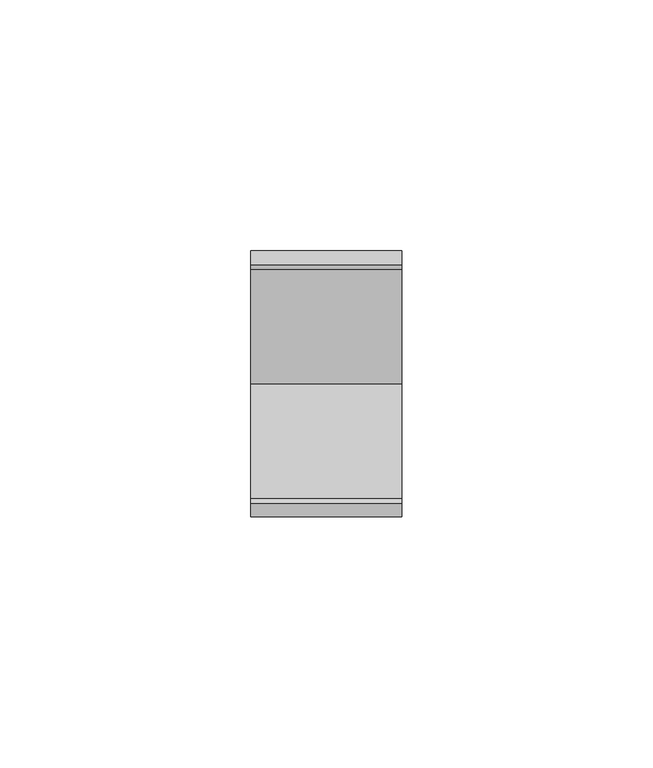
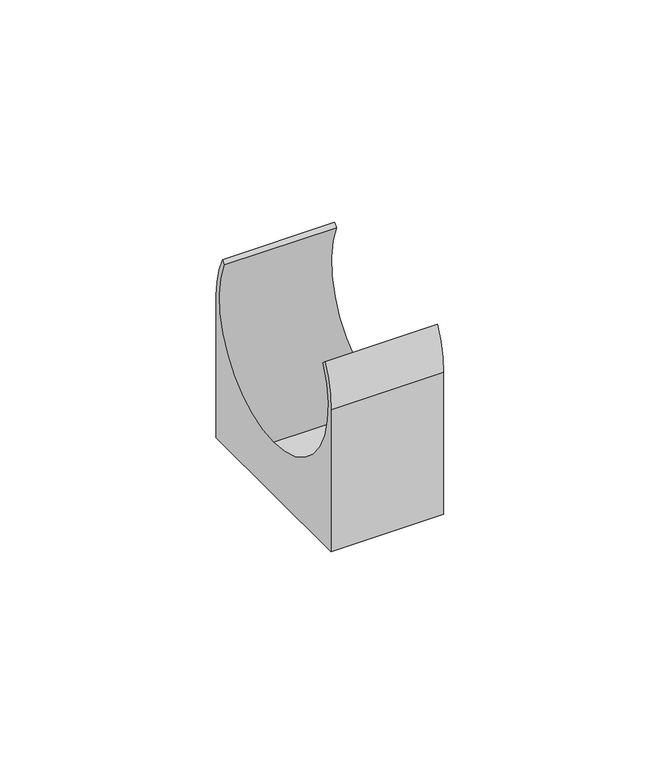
"""IFC4 building model written with IfcOpenShell, lengths in millimetres: cable carrier fitting geometry, Крепеж-клипса_для_труб : Крепеж-клипса для трубы 50мм."""

import ifcopenshell
import ifcopenshell.guid

model = None  # the IFC model being written
_history = None  # IfcOwnerHistory: only IFC2X3 demands one
_inside = {}  # id of a spatial element -> (the spatial element, [elements in it])
_under = {}  # id of a project, library or spatial element -> (it, [spatial elements below it])
_declared = {}  # id of a project -> (the project, [libraries it declares])
_typed = {}  # id of a type object -> (the type object, [elements of that type])
_made_of = {}  # id of a material, layer set ... -> (it, [elements and type objects made of it])


def new_model(schema):
    """Start an empty IFC model of exactly this schema.

    Asked for "IFC4X3", IfcOpenShell would pick the latest addendum, in which some entities
    have other attributes; the version numbers below select the first issue.
    IFC2X3 requires an IfcOwnerHistory on every rooted entity: one is made here for all.
    """
    global model, _history
    if schema == "IFC4X3":
        model = ifcopenshell.file(schema_version=(4, 3, 0, 0))
    else:
        model = ifcopenshell.file(schema=schema)
    _inside.clear()
    _under.clear()
    _declared.clear()
    _typed.clear()
    _made_of.clear()
    _history = None
    if model.schema == "IFC2X3":
        org = make("IfcOrganization", Name="unknown")
        user = make(
            "IfcPersonAndOrganization",
            ThePerson=make("IfcPerson", FamilyName="unknown"),
            TheOrganization=org,
        )
        app = make(
            "IfcApplication",
            ApplicationDeveloper=org,
            Version="unknown",
            ApplicationFullName="unknown",
            ApplicationIdentifier="unknown",
        )
        _history = make(
            "IfcOwnerHistory",
            OwningUser=user,
            OwningApplication=app,
            ChangeAction="ADDED",
            CreationDate=0,
        )
    return model


def make(cls, **values):
    """One entity of the class cls with the attributes given. An attribute that is None is left unset."""
    return model.create_entity(
        cls, **{name: value for name, value in values.items() if value is not None}
    )


def rooted(cls, **values):
    """An entity with a GlobalId (a new one), such as an element, a storey or a relation."""
    return make(cls, GlobalId=ifcopenshell.guid.new(), OwnerHistory=_history, **values)


def si_unit(unit_type, name, prefix=None):
    """IfcSIUnit, for example si_unit("LENGTHUNIT", "METRE", prefix="MILLI")."""
    return make("IfcSIUnit", UnitType=unit_type, Prefix=prefix, Name=name)


def assignment(units):
    """IfcUnitAssignment: the units of a project."""
    return None if units is None else make("IfcUnitAssignment", Units=units)


def point(xyz):
    """IfcCartesianPoint."""
    return None if xyz is None else make("IfcCartesianPoint", Coordinates=xyz)


def direction(xyz):
    """IfcDirection."""
    return None if xyz is None else make("IfcDirection", DirectionRatios=xyz)


def frame(location, z_axis=None, x_axis=None):
    """IfcAxis2Placement3D, a coordinate frame: its origin and axes. An axis left out is left unset."""
    return make(
        "IfcAxis2Placement3D",
        Location=point(location),
        Axis=direction(z_axis),
        RefDirection=direction(x_axis),
    )


def frame_2d(location, x_axis=None):
    """IfcAxis2Placement2D, a coordinate frame in the plane: its origin and x axis."""
    return make(
        "IfcAxis2Placement2D", Location=point(location), RefDirection=direction(x_axis)
    )


def origin():
    """The frame at (0, 0, 0) with its axes left unset."""
    return frame((0.0, 0.0, 0.0))


def origin_2d():
    """The frame at (0, 0) in the plane with its x axis left unset."""
    return frame_2d((0.0, 0.0))


def place(relative_to, where):
    """IfcLocalPlacement: puts the frame where relative to a parent placement (None: the world)."""
    return make(
        "IfcLocalPlacement", PlacementRelTo=relative_to, RelativePlacement=where
    )


def context(
    kind, dimensions, precision=None, world=None, true_north=None, identifier=None
):
    """IfcGeometricRepresentationContext, for example the 3D "Model" context."""
    return make(
        "IfcGeometricRepresentationContext",
        ContextIdentifier=identifier,
        ContextType=kind,
        CoordinateSpaceDimension=dimensions,
        Precision=precision,
        WorldCoordinateSystem=world,
        TrueNorth=true_north,
    )


def project(units=None, contexts=None):
    """IfcProject with its units and contexts."""
    return rooted(
        "IfcProject",
        Name="project",
        RepresentationContexts=contexts,
        UnitsInContext=assignment(units),
    )


def spatial(cls, under=None, at=None, **own):
    """A site, building, storey or space (cls), placed at a placement, below another one or the project."""
    s = rooted(cls, ObjectPlacement=at, **own)
    if under is not None:
        _under.setdefault(under.id(), (under, []))[1].append(s)
    return s


def polyline(points):
    """IfcPolyline through the points."""
    return make("IfcPolyline", Points=[point(p) for p in points])


def circle_curve(where, radius):
    """IfcCircle in the frame where."""
    return make("IfcCircle", Position=where, Radius=radius)


def trimmed(basis, trim1, trim2, sense, master):
    """IfcTrimmedCurve: the piece of a basis curve between two trims."""
    return make(
        "IfcTrimmedCurve",
        BasisCurve=basis,
        Trim1=trim1,
        Trim2=trim2,
        SenseAgreement=sense,
        MasterRepresentation=master,
    )


def segment(curve, same_sense, transition):
    """IfcCompositeCurveSegment."""
    return make(
        "IfcCompositeCurveSegment",
        Transition=transition,
        SameSense=same_sense,
        ParentCurve=curve,
    )


def composite_curve(segments, self_intersect=None):
    """IfcCompositeCurve: segments joined end to end."""
    return make("IfcCompositeCurve", Segments=segments, SelfIntersect=self_intersect)


def outline(outer, holes=None, kind="AREA"):
    """IfcArbitraryClosedProfileDef: a profile drawn as a closed curve; with holes, ...WithVoids."""
    if holes is None:
        return make("IfcArbitraryClosedProfileDef", ProfileType=kind, OuterCurve=outer)
    return make(
        "IfcArbitraryProfileDefWithVoids",
        ProfileType=kind,
        OuterCurve=outer,
        InnerCurves=holes,
    )


def extrude(swept, where, along, depth):
    """IfcExtrudedAreaSolid: the profile swept, set in the frame where, extruded along a direction by depth."""
    return make(
        "IfcExtrudedAreaSolid",
        SweptArea=swept,
        Position=where,
        ExtrudedDirection=direction(along),
        Depth=depth,
    )


def shape(context_of_items, identifier, shape_type, items):
    """IfcShapeRepresentation: the items that make up one representation, for example the "Body"."""
    return make(
        "IfcShapeRepresentation",
        ContextOfItems=context_of_items,
        RepresentationIdentifier=identifier,
        RepresentationType=shape_type,
        Items=items,
    )


def source(mapping_origin, context_of_items, identifier, shape_type, items):
    """IfcRepresentationMap: a shape defined once, which mapped items show again and again."""
    return make(
        "IfcRepresentationMap",
        MappingOrigin=mapping_origin,
        MappedRepresentation=shape(context_of_items, identifier, shape_type, items),
    )


def transform(
    local_origin,
    x_axis=None,
    y_axis=None,
    z_axis=None,
    scale=None,
    scale2=None,
    scale3=None,
    uniform=True,
):
    """IfcCartesianTransformationOperator3D, or its non-uniform kind. x_axis, y_axis, z_axis: its Axis1, 2, 3."""
    if uniform:
        return make(
            "IfcCartesianTransformationOperator3D",
            Axis1=direction(x_axis),
            Axis2=direction(y_axis),
            LocalOrigin=point(local_origin),
            Scale=scale,
            Axis3=direction(z_axis),
        )
    return make(
        "IfcCartesianTransformationOperator3DnonUniform",
        Axis1=direction(x_axis),
        Axis2=direction(y_axis),
        LocalOrigin=point(local_origin),
        Scale=scale,
        Axis3=direction(z_axis),
        Scale2=scale2,
        Scale3=scale3,
    )


def mapped(mapping_source, mapping_target):
    """IfcMappedItem: shows the shape of a source again, moved by a transform."""
    return make(
        "IfcMappedItem", MappingSource=mapping_source, MappingTarget=mapping_target
    )


def made_of(thing, what):
    """Note that an element or type object is made of a material, layer set ...; save() writes the relation."""
    if what is not None:
        _made_of.setdefault(what.id(), (what, []))[1].append(thing)
    return thing


def element(
    cls,
    number,
    at=None,
    inside=None,
    cuts=None,
    type_object=None,
    material=None,
    context=None,
    identifier="Body",
    shape_type=None,
    held_by="IfcProductDefinitionShape",
    body=None,
    shapes=None,
    **own,
):
    """One element of the class cls, such as IfcWall. Its Tag is "e" and its number.

    at: its placement. inside: the storey or other place that contains it. cuts: it is an
    opening in that element (IfcRelVoidsElement). A single representation is given by context,
    identifier, shape_type and body (its items); several are given by shapes. held_by: the class
    of the entity that holds the representations. save() writes the other relations.
    """
    e = rooted(cls, Tag="e%d" % number, ObjectPlacement=at, **own)
    if body is not None:
        shapes = [shape(context, identifier, shape_type, body)]
    if shapes is not None:
        e.Representation = make(held_by, Representations=shapes)
    if inside is not None:
        _inside.setdefault(inside.id(), (inside, []))[1].append(e)
    if cuts is not None:
        rooted(
            "IfcRelVoidsElement", RelatingBuildingElement=cuts, RelatedOpeningElement=e
        )
    if type_object is not None:
        _typed.setdefault(type_object.id(), (type_object, []))[1].append(e)
    return made_of(e, material)


def aggregate(whole, parts):
    """IfcRelAggregates: a whole, such as a stair, and the parts it consists of."""
    return rooted("IfcRelAggregates", RelatingObject=whole, RelatedObjects=parts)


def save(model, path):
    """Write the relations noted so far, then the file.

    IfcRelAggregates (storeys below a building ...), IfcRelContainedInSpatialStructure (elements
    in a storey), IfcRelDefinesByType, IfcRelAssociatesMaterial and IfcRelDeclares: one each for
    every whole, place, type object, material and project.
    """
    for whole, parts in _under.values():
        aggregate(whole, parts)
    for where, things in _inside.values():
        rooted(
            "IfcRelContainedInSpatialStructure",
            RelatedElements=things,
            RelatingStructure=where,
        )
    for kind, things in _typed.values():
        rooted("IfcRelDefinesByType", RelatedObjects=things, RelatingType=kind)
    for what, things in _made_of.values():
        rooted("IfcRelAssociatesMaterial", RelatedObjects=things, RelatingMaterial=what)
    for by, libraries in _declared.values():
        rooted("IfcRelDeclares", RelatingContext=by, RelatedDefinitions=libraries)
    model.write(path)


def cable_carrier_fitting_233f67c3(model_context):
    return source(origin(), model_context, "Body", "SweptSolid", [
        extrude(outline(composite_curve([segment(trimmed(circle_curve(origin_2d(), 25.3054131), [point((0.0, -25.3054131))], [point((22.8243712, 10.9275805))], True, "CARTESIAN"), True, "CONTINUOUS"), segment(polyline([(22.8243712, 10.9275805), (23.7175144, 11.8207237)]), True, "CONTINUOUS"), segment(trimmed(circle_curve(origin_2d(), 26.5), [point((23.7175144, 11.8207237))], [point((26.5, 0.0))], False, "CARTESIAN"), True, "CONTINUOUS"), segment(polyline([(26.5, 0.0), (26.5, -40.0), (-26.5, -40.0), (-26.5, 0.0)]), True, "CONTINUOUS"), segment(trimmed(circle_curve(origin_2d(), 26.5), [point((-26.5, 0.0))], [point((-23.7175144, 11.8207237))], False, "CARTESIAN"), True, "CONTINUOUS"), segment(polyline([(-23.7175144, 11.8207237), (-22.8243712, 10.9275805)]), True, "CONTINUOUS"), segment(trimmed(circle_curve(origin_2d(), 25.3054131), [point((-22.8243712, 10.9275805))], [point((0.0, -25.3054131))], True, "CARTESIAN"), True, "CONTINUOUS")], self_intersect=False)), frame((-15.0, 0.0, 0.0), z_axis=(1.0, 0.0, 0.0), x_axis=(0.0, 1.0, 0.0)), (0.0, 0.0, 1.0), 30.0),
    ])


if __name__ == "__main__":
    model = new_model("IFC4")
    model_context = context("Model", 3, world=origin())
    ifc_project = project(units=[si_unit("LENGTHUNIT", "METRE", prefix="MILLI")], contexts=[model_context])
    site = spatial("IfcSite", under=ifc_project)
    building = spatial("IfcBuilding", under=site)
    placement = place(None, origin())
    cable_carrier_fitting_shape = cable_carrier_fitting_233f67c3(model_context)
    element("IfcCableCarrierFitting", 1, ObjectType="Крепеж-клипса_для_труб : Крепеж-клипса для трубы 50мм", at=placement, inside=building, context=model_context, shape_type="MappedRepresentation", body=[
        mapped(cable_carrier_fitting_shape, transform((0.0, 0.0, 0.0), x_axis=(1.0, 0.0, 0.0), y_axis=(0.0, 1.0, 0.0), z_axis=(0.0, 0.0, 1.0))),
    ])
    save(model, "model.ifc")
